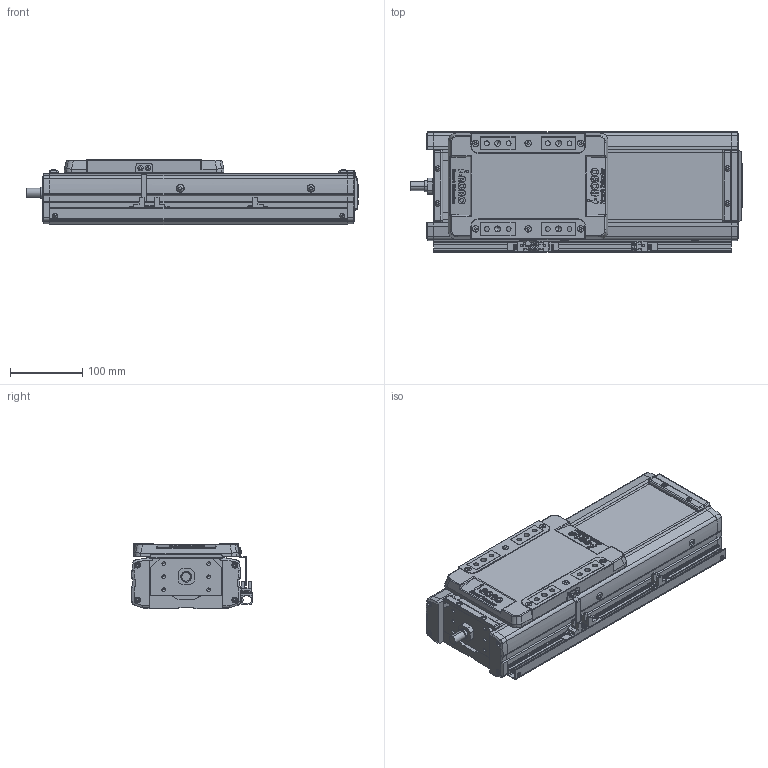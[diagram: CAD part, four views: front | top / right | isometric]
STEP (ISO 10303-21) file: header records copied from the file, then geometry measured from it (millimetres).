
FILE_DESCRIPTION(('STEP AP214'),'1');
FILE_NAME('Z:/Web/3D/SAN150/2013.04 (STP.)/SAN150ㅁㅁ-150+3SR.stp','2013-05-08T02:36:59',(' '),(' '),'Spatial InterOp 3D',' ',' ');
FILE_SCHEMA(('automotive_design'));
Length unit declared in the file: millimetre
Products named in the file (53): SLBL-SAN150; SLCV-SAN150; FHCS M4.0 x 8.0; BHCS M4.0 x 10.0; SFX-SAN150; RRCV-SAN150; FRBL-SAN150; Spacer; RN15; FRCV-SAN150; Screw 20; BASE-SAN150-000L ; SUS COVER; 스크루 : Round - M5.0 x 6.0; M3.0 x 6.0; SRL-16x17-360L; SGD-SAN150; EE-SX674; SBK-SX674-352; 스크루 : Round - M3.0 x 6.0
Bounding box: 458 x 166 x 90 mm (x, y, z)
Volume: 3042895.2 mm3; surface area: 623167 mm2
Topology: 53 solids, 53 shells, 2420 faces, 6238 edges, 4023 vertices
Faces by surface type: plane 1332, cylinder 761, cone 226, sphere 68, bspline 21, torus 12
Entity records: 95615 total; most frequent: CARTESIAN_POINT 14912, DIRECTION 13122, ORIENTED_EDGE 12300, EDGE_CURVE 6150, AXIS2_PLACEMENT_3D 4592, VERTEX_POINT 4023, LINE 3938, VECTOR 3938
